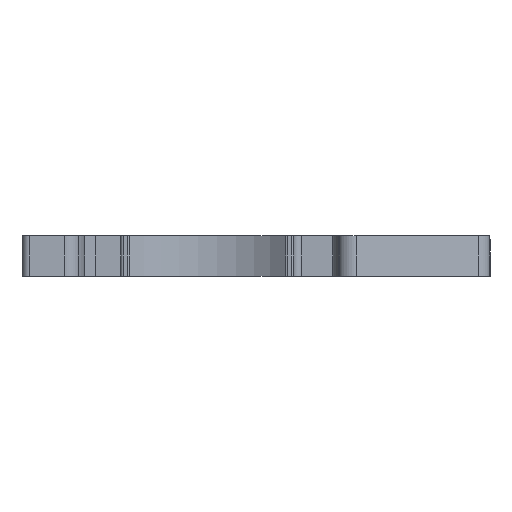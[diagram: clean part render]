
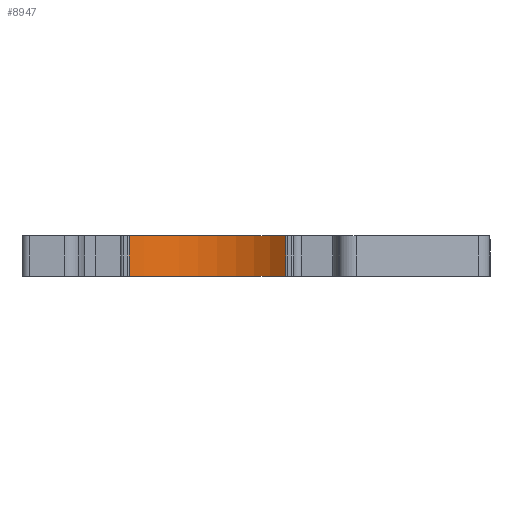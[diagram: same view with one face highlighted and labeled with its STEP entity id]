
A CAD part, front view. The second image highlights one B-rep face of the part: STEP entity #8947.
In plain terms, the highlighted cylindrical face has radius 15 mm (diameter 30 mm), a partial arc.
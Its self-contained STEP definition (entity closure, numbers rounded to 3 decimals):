
#608=CARTESIAN_POINT('',(23.952,-7.25,0.025));
#609=DIRECTION('',(0.,0.,1.));
#610=DIRECTION('',(0.674,0.739,0.));
#611=AXIS2_PLACEMENT_3D('',#608,#609,#610);
#672=CARTESIAN_POINT('',(23.952,-7.25,-5.175));
#673=DIRECTION('',(0.,0.,-1.));
#674=DIRECTION('',(-0.674,0.739,0.));
#675=AXIS2_PLACEMENT_3D('',#672,#673,#674);
#1079=DIRECTION('',(0.,0.,1.));
#1080=VECTOR('',#1079,5.2);
#1081=CARTESIAN_POINT('',(13.839,3.828,-5.175));
#1082=LINE('',#1081,#1080);
#1083=DIRECTION('',(0.,0.,1.));
#1084=VECTOR('',#1083,5.2);
#1085=CARTESIAN_POINT('',(34.065,3.828,-5.175));
#1086=LINE('',#1085,#1084);
#6734=CARTESIAN_POINT('',(34.065,3.828,0.025));
#6735=VERTEX_POINT('',#6734);
#6736=CARTESIAN_POINT('',(13.839,3.828,0.025));
#6737=VERTEX_POINT('',#6736);
#6774=CARTESIAN_POINT('',(13.839,3.828,-5.175));
#6775=VERTEX_POINT('',#6774);
#6776=CARTESIAN_POINT('',(34.065,3.828,-5.175));
#6777=VERTEX_POINT('',#6776);
#8935=CARTESIAN_POINT('',(23.952,-7.25,
-5.279));
#8936=DIRECTION('',(0.,0.,1.));
#8937=DIRECTION('',(1.,0.,0.));
#8938=AXIS2_PLACEMENT_3D('',#8935,#8936,#8937);
#8939=CYLINDRICAL_SURFACE('',#8938,15.);
#8940=ORIENTED_EDGE('',*,*,#8643,.F.);
#8941=ORIENTED_EDGE('',*,*,#8929,.T.);
#8942=ORIENTED_EDGE('',*,*,#8555,.F.);
#8944=ORIENTED_EDGE('',*,*,#8943,.F.);
#8945=EDGE_LOOP('',(#8940,#8941,#8942,#8944));
#8946=FACE_OUTER_BOUND('',#8945,.F.);
#612=CIRCLE('',#611,15.);
#676=CIRCLE('',#675,15.);
#8555=EDGE_CURVE('',#6735,#6737,#612,.T.);
#8643=EDGE_CURVE('',#6775,#6777,#676,.T.);
#8929=EDGE_CURVE('',#6775,#6737,#1082,.T.);
#8943=EDGE_CURVE('',#6777,#6735,#1086,.T.);
#8947=ADVANCED_FACE('',(#8946),#8939,.F.);
